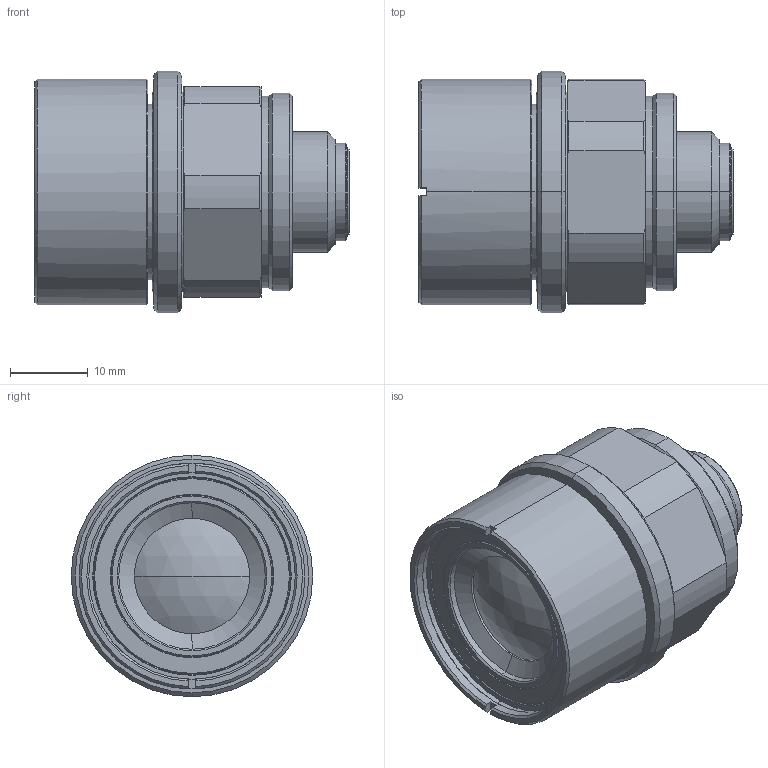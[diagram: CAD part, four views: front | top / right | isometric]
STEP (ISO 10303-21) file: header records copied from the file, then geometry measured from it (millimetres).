
FILE_DESCRIPTION (( 'STEP AP203' ), '1' );
FILE_NAME ('VS-MCA4.STEP', '2017-10-11T05:28:36', ( '' ), ( '' ), 'SwSTEP 2.0', 'SolidWorks 2017', '' );
FILE_SCHEMA (( 'CONFIG_CONTROL_DESIGN' ));
Length unit declared in the file: millimetre
Products named in the file (1): VS-MCA4
Bounding box: 40.32 x 31 x 31 mm (x, y, z)
Volume: 18687.9 mm3; surface area: 7152.3 mm2
Topology: 1 solids, 1 shells, 151 faces, 340 edges, 210 vertices
Faces by surface type: cone 72, cylinder 42, plane 33, sphere 4
Entity records: 4339 total; most frequent: CARTESIAN_POINT 798, DIRECTION 788, ORIENTED_EDGE 680, EDGE_CURVE 340, AXIS2_PLACEMENT_3D 328, VERTEX_POINT 210, CIRCLE 176, EDGE_LOOP 170
